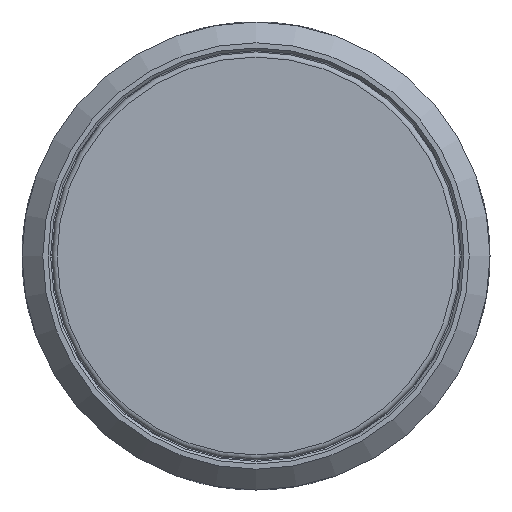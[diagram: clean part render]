
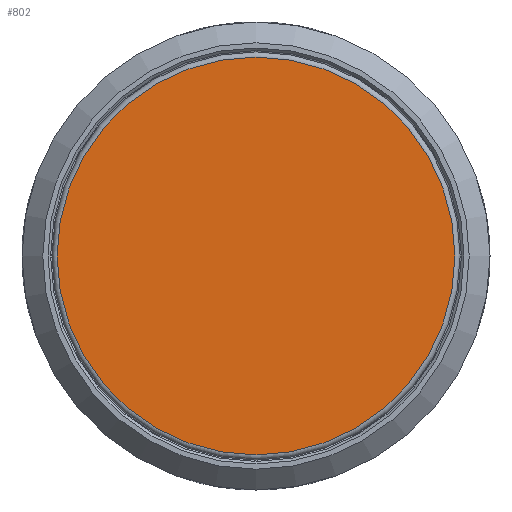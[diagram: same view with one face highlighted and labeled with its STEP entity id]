
A CAD part, left-side view. The second image highlights one B-rep face of the part: STEP entity #802.
In plain terms, the highlighted planar face has unit normal (-1, 0, 0).
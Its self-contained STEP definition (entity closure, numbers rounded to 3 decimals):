
#137=PLANE('',#870);
#185=FACE_OUTER_BOUND('',#239,.T.);
#239=EDGE_LOOP('',(#562));
#325=CIRCLE('',#868,7.65);
#370=VERTEX_POINT('',#1141);
#455=EDGE_CURVE('',#370,#370,#325,.T.);
#562=ORIENTED_EDGE('',*,*,#455,.T.);
#802=ADVANCED_FACE('',(#185),#137,.F.);
#868=AXIS2_PLACEMENT_3D('',#1142,#953,#954);
#870=AXIS2_PLACEMENT_3D('',#1145,#957,#958);
#953=DIRECTION('center_axis',(-1.,0.,0.));
#954=DIRECTION('ref_axis',(0.,1.,0.));
#957=DIRECTION('center_axis',(1.,0.,0.));
#958=DIRECTION('ref_axis',(0.,-1.,0.));
#1141=CARTESIAN_POINT('',(0.,-7.65,0.));
#1142=CARTESIAN_POINT('Origin',(0.,0.,0.));
#1145=CARTESIAN_POINT('Origin',(0.,0.,0.));
